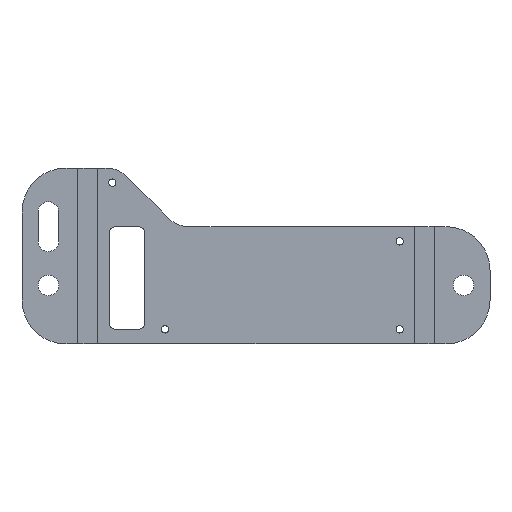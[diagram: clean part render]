
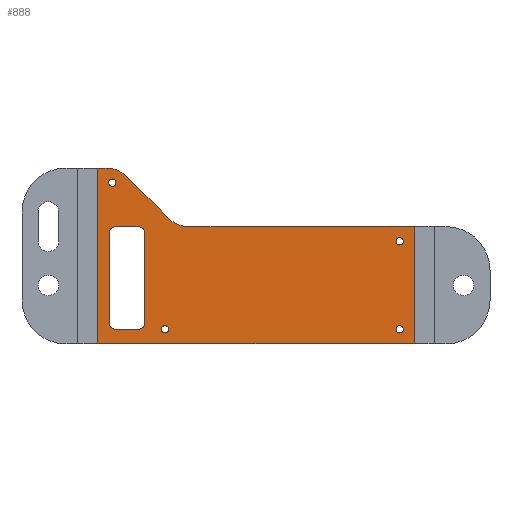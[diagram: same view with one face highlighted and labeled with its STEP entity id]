
A CAD part, top view. The second image highlights one B-rep face of the part: STEP entity #888.
In plain terms, the highlighted planar face has unit normal (0, 0, 1).
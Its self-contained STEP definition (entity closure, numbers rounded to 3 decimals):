
#26=FACE_BOUND('',#168,.T.);
#27=FACE_BOUND('',#169,.T.);
#28=FACE_BOUND('',#170,.T.);
#29=FACE_BOUND('',#171,.T.);
#30=FACE_BOUND('',#172,.T.);
#60=PLANE('',#986);
#108=FACE_OUTER_BOUND('',#167,.T.);
#167=EDGE_LOOP('',(#803,#804,#805,#806,#807,#808,#809,#810));
#168=EDGE_LOOP('',(#811));
#169=EDGE_LOOP('',(#812));
#170=EDGE_LOOP('',(#813));
#171=EDGE_LOOP('',(#814));
#172=EDGE_LOOP('',(#815,#816,#817,#818,#819,#820,#821,#822));
#177=LINE('',#1258,#263);
#180=LINE('',#1269,#266);
#184=LINE('',#1281,#270);
#187=LINE('',#1290,#273);
#193=LINE('',#1306,#279);
#197=LINE('',#1318,#283);
#247=LINE('',#1466,#333);
#256=LINE('',#1483,#342);
#257=LINE('',#1486,#343);
#258=LINE('',#1488,#344);
#263=VECTOR('',#1001,10.);
#266=VECTOR('',#1012,10.);
#270=VECTOR('',#1024,10.);
#273=VECTOR('',#1035,10.);
#279=VECTOR('',#1049,10.);
#283=VECTOR('',#1061,10.);
#333=VECTOR('',#1211,10.);
#342=VECTOR('',#1232,10.);
#343=VECTOR('',#1237,10.);
#344=VECTOR('',#1240,10.);
#346=CIRCLE('',#905,2.);
#348=CIRCLE('',#909,2.);
#350=CIRCLE('',#913,2.);
#352=CIRCLE('',#917,2.);
#354=CIRCLE('',#921,10.);
#355=CIRCLE('',#924,10.);
#373=CIRCLE('',#955,1.265);
#374=CIRCLE('',#957,1.265);
#375=CIRCLE('',#959,1.265);
#376=CIRCLE('',#961,1.265);
#383=VERTEX_POINT('',#1248);
#384=VERTEX_POINT('',#1250);
#386=VERTEX_POINT('',#1256);
#389=VERTEX_POINT('',#1263);
#390=VERTEX_POINT('',#1265);
#393=VERTEX_POINT('',#1275);
#394=VERTEX_POINT('',#1277);
#396=VERTEX_POINT('',#1286);
#399=VERTEX_POINT('',#1296);
#400=VERTEX_POINT('',#1298);
#402=VERTEX_POINT('',#1304);
#403=VERTEX_POINT('',#1308);
#406=VERTEX_POINT('',#1316);
#442=VERTEX_POINT('',#1410);
#443=VERTEX_POINT('',#1414);
#444=VERTEX_POINT('',#1418);
#445=VERTEX_POINT('',#1422);
#453=VERTEX_POINT('',#1458);
#454=VERTEX_POINT('',#1462);
#456=VERTEX_POINT('',#1479);
#459=EDGE_CURVE('',#383,#384,#346,.T.);
#463=EDGE_CURVE('',#383,#386,#177,.T.);
#466=EDGE_CURVE('',#389,#390,#348,.T.);
#468=EDGE_CURVE('',#389,#384,#180,.T.);
#472=EDGE_CURVE('',#393,#394,#350,.T.);
#474=EDGE_CURVE('',#393,#390,#184,.T.);
#478=EDGE_CURVE('',#396,#386,#352,.T.);
#479=EDGE_CURVE('',#396,#394,#187,.T.);
#483=EDGE_CURVE('',#399,#400,#354,.T.);
#487=EDGE_CURVE('',#399,#402,#193,.T.);
#488=EDGE_CURVE('',#403,#402,#355,.T.);
#493=EDGE_CURVE('',#403,#406,#197,.T.);
#539=EDGE_CURVE('',#442,#442,#373,.T.);
#541=EDGE_CURVE('',#443,#443,#374,.T.);
#543=EDGE_CURVE('',#444,#444,#375,.T.);
#545=EDGE_CURVE('',#445,#445,#376,.T.);
#567=EDGE_CURVE('',#453,#454,#247,.T.);
#576=EDGE_CURVE('',#406,#456,#256,.T.);
#577=EDGE_CURVE('',#454,#400,#257,.T.);
#578=EDGE_CURVE('',#456,#453,#258,.T.);
#803=ORIENTED_EDGE('',*,*,#488,.F.);
#804=ORIENTED_EDGE('',*,*,#493,.T.);
#805=ORIENTED_EDGE('',*,*,#576,.T.);
#806=ORIENTED_EDGE('',*,*,#578,.T.);
#807=ORIENTED_EDGE('',*,*,#567,.T.);
#808=ORIENTED_EDGE('',*,*,#577,.T.);
#809=ORIENTED_EDGE('',*,*,#483,.F.);
#810=ORIENTED_EDGE('',*,*,#487,.T.);
#811=ORIENTED_EDGE('',*,*,#539,.T.);
#812=ORIENTED_EDGE('',*,*,#541,.T.);
#813=ORIENTED_EDGE('',*,*,#543,.T.);
#814=ORIENTED_EDGE('',*,*,#545,.T.);
#815=ORIENTED_EDGE('',*,*,#479,.T.);
#816=ORIENTED_EDGE('',*,*,#472,.F.);
#817=ORIENTED_EDGE('',*,*,#474,.T.);
#818=ORIENTED_EDGE('',*,*,#466,.F.);
#819=ORIENTED_EDGE('',*,*,#468,.T.);
#820=ORIENTED_EDGE('',*,*,#459,.F.);
#821=ORIENTED_EDGE('',*,*,#463,.T.);
#822=ORIENTED_EDGE('',*,*,#478,.F.);
#888=ADVANCED_FACE('',(#108,#26,#27,#28,#29,#30),#60,.T.);
#905=AXIS2_PLACEMENT_3D('',#1251,#994,#995);
#909=AXIS2_PLACEMENT_3D('',#1266,#1007,#1008);
#913=AXIS2_PLACEMENT_3D('',#1278,#1019,#1020);
#917=AXIS2_PLACEMENT_3D('',#1288,#1031,#1032);
#921=AXIS2_PLACEMENT_3D('',#1299,#1042,#1043);
#924=AXIS2_PLACEMENT_3D('',#1309,#1052,#1053);
#955=AXIS2_PLACEMENT_3D('',#1412,#1147,#1148);
#957=AXIS2_PLACEMENT_3D('',#1416,#1152,#1153);
#959=AXIS2_PLACEMENT_3D('',#1420,#1157,#1158);
#961=AXIS2_PLACEMENT_3D('',#1424,#1162,#1163);
#986=AXIS2_PLACEMENT_3D('',#1489,#1241,#1242);
#994=DIRECTION('center_axis',(0.,0.,1.));
#995=DIRECTION('ref_axis',(0.707,0.707,0.));
#1001=DIRECTION('',(0.,-1.,0.));
#1007=DIRECTION('center_axis',(0.,0.,1.));
#1008=DIRECTION('ref_axis',(-0.707,0.707,0.));
#1012=DIRECTION('',(1.,0.,0.));
#1019=DIRECTION('center_axis',(0.,0.,1.));
#1020=DIRECTION('ref_axis',(-0.707,-0.707,0.));
#1024=DIRECTION('',(0.,1.,0.));
#1031=DIRECTION('center_axis',(0.,0.,1.));
#1032=DIRECTION('ref_axis',(0.707,-0.707,0.));
#1035=DIRECTION('',(-1.,0.,0.));
#1042=DIRECTION('center_axis',(0.,0.,1.));
#1043=DIRECTION('ref_axis',(-0.383,-0.924,0.));
#1049=DIRECTION('',(-0.707,0.707,0.));
#1052=DIRECTION('center_axis',(0.,0.,-1.));
#1053=DIRECTION('ref_axis',(0.383,0.924,0.));
#1061=DIRECTION('',(-1.,0.,0.));
#1147=DIRECTION('center_axis',(0.,0.,-1.));
#1148=DIRECTION('ref_axis',(-1.,0.,0.));
#1152=DIRECTION('center_axis',(0.,0.,-1.));
#1153=DIRECTION('ref_axis',(-1.,0.,0.));
#1157=DIRECTION('center_axis',(0.,0.,-1.));
#1158=DIRECTION('ref_axis',(-1.,0.,0.));
#1162=DIRECTION('center_axis',(0.,0.,-1.));
#1163=DIRECTION('ref_axis',(-1.,0.,0.));
#1211=DIRECTION('',(0.,1.,0.));
#1232=DIRECTION('',(0.,-1.,0.));
#1237=DIRECTION('',(-1.,0.,0.));
#1240=DIRECTION('',(1.,0.,0.));
#1241=DIRECTION('center_axis',(0.,0.,1.));
#1242=DIRECTION('ref_axis',(1.,0.,0.));
#1248=CARTESIAN_POINT('',(179.9,-41.791,3.));
#1250=CARTESIAN_POINT('',(177.9,-39.791,3.));
#1251=CARTESIAN_POINT('Origin',(177.9,-41.791,3.));
#1256=CARTESIAN_POINT('',(179.9,-72.791,3.));
#1258=CARTESIAN_POINT('',(179.9,-39.791,3.));
#1263=CARTESIAN_POINT('',(169.9,-39.791,3.));
#1265=CARTESIAN_POINT('',(167.9,-41.791,3.));
#1266=CARTESIAN_POINT('Origin',(169.9,-41.791,3.));
#1269=CARTESIAN_POINT('',(167.9,-39.791,3.));
#1275=CARTESIAN_POINT('',(167.9,-72.791,3.));
#1277=CARTESIAN_POINT('',(169.9,-74.791,3.));
#1278=CARTESIAN_POINT('Origin',(169.9,-72.791,3.));
#1281=CARTESIAN_POINT('',(167.9,-74.791,3.));
#1286=CARTESIAN_POINT('',(177.9,-74.791,3.));
#1288=CARTESIAN_POINT('Origin',(177.9,-72.791,3.));
#1290=CARTESIAN_POINT('',(179.9,-74.791,3.));
#1296=CARTESIAN_POINT('',(187.971,-36.862,3.));
#1298=CARTESIAN_POINT('',(195.042,-39.791,3.));
#1299=CARTESIAN_POINT('Origin',(195.042,-29.791,3.));
#1304=CARTESIAN_POINT('',(173.829,-22.719,3.));
#1306=CARTESIAN_POINT('',(190.9,-39.791,3.));
#1308=CARTESIAN_POINT('',(166.758,-19.791,3.));
#1309=CARTESIAN_POINT('Origin',(166.758,-29.791,3.));
#1316=CARTESIAN_POINT('',(163.9,-19.791,3.));
#1318=CARTESIAN_POINT('',(170.9,-19.791,3.));
#1410=CARTESIAN_POINT('',(268.165,-74.791,3.));
#1412=CARTESIAN_POINT('Origin',(266.9,-74.791,3.));
#1414=CARTESIAN_POINT('',(188.165,-74.791,3.));
#1416=CARTESIAN_POINT('Origin',(186.9,-74.791,3.));
#1418=CARTESIAN_POINT('',(170.165,-24.791,3.));
#1420=CARTESIAN_POINT('Origin',(168.9,-24.791,3.));
#1422=CARTESIAN_POINT('',(268.165,-44.791,3.));
#1424=CARTESIAN_POINT('Origin',(266.9,-44.791,3.));
#1458=CARTESIAN_POINT('',(271.9,-79.791,3.));
#1462=CARTESIAN_POINT('',(271.9,-39.791,3.));
#1466=CARTESIAN_POINT('',(271.9,-64.791,3.));
#1479=CARTESIAN_POINT('',(163.9,-79.791,3.));
#1483=CARTESIAN_POINT('',(163.9,-34.791,3.));
#1486=CARTESIAN_POINT('',(274.9,-39.791,3.));
#1488=CARTESIAN_POINT('',(160.9,-79.791,3.));
#1489=CARTESIAN_POINT('Origin',(217.9,-49.791,3.));
